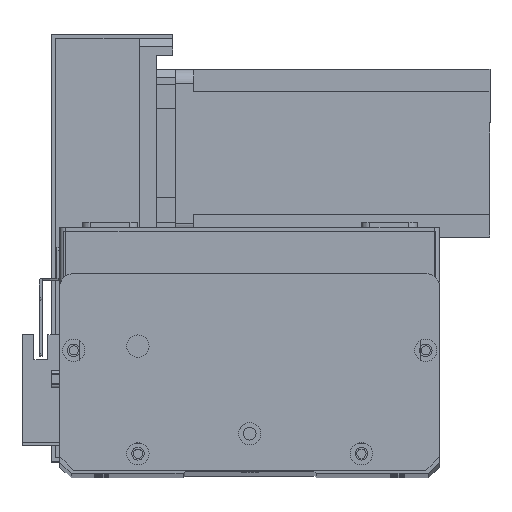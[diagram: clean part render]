
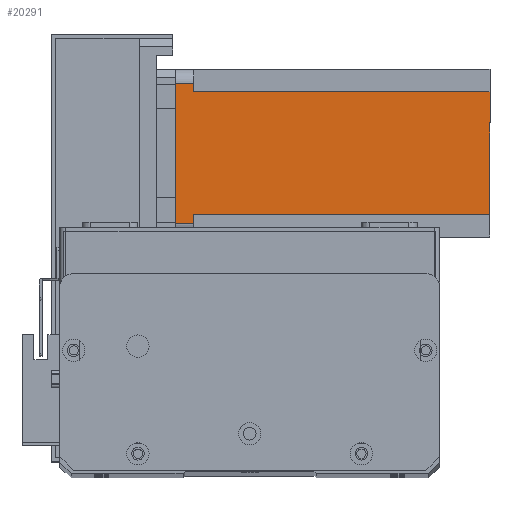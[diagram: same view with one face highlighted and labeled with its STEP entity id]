
A CAD part, top view. The second image highlights one B-rep face of the part: STEP entity #20291.
In plain terms, the highlighted planar face has unit normal (0, 0, 1) as drawn and (0, -1, 0) by its records, which use the part's own axes.
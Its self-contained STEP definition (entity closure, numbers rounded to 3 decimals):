
#409 = EDGE_CURVE ( 'NONE', #1395, #6308, #28126, .T. ) ;
#1178 = CARTESIAN_POINT ( 'NONE',  ( 55., 0., -6.5 ) ) ;
#1395 = VERTEX_POINT ( 'NONE', #23393 ) ;
#2727 = ORIENTED_EDGE ( 'NONE', *, *, #26328, .T. ) ;
#2772 = ORIENTED_EDGE ( 'NONE', *, *, #12820, .F. ) ;
#2893 = VERTEX_POINT ( 'NONE', #1178 ) ;
#3496 = VERTEX_POINT ( 'NONE', #20284 ) ;
#3690 = VECTOR ( 'NONE', #4307, 1000. ) ;
#4184 = DIRECTION ( 'NONE',  ( 1., 0., 0. ) ) ;
#4307 = DIRECTION ( 'NONE',  ( 1., 0., 0. ) ) ;
#4383 = LINE ( 'NONE', #22346, #3690 ) ;
#4806 = ORIENTED_EDGE ( 'NONE', *, *, #17255, .T. ) ;
#4858 = EDGE_CURVE ( 'NONE', #3496, #24020, #10152, .T. ) ;
#5598 = CARTESIAN_POINT ( 'NONE',  ( 52., 0., -112.5 ) ) ;
#5762 = DIRECTION ( 'NONE',  ( 0., 0., -1. ) ) ;
#6308 = VERTEX_POINT ( 'NONE', #9571 ) ;
#6412 = CARTESIAN_POINT ( 'NONE',  ( 52., 0., -6.5 ) ) ;
#6888 = EDGE_CURVE ( 'NONE', #15036, #24020, #28489, .T. ) ;
#7307 = DIRECTION ( 'NONE',  ( -1., 0., 0. ) ) ;
#7412 = CARTESIAN_POINT ( 'NONE',  ( 8., 0., -6.5 ) ) ;
#9251 = ORIENTED_EDGE ( 'NONE', *, *, #12683, .T. ) ;
#9571 = CARTESIAN_POINT ( 'NONE',  ( 52., 0., -112.5 ) ) ;
#9656 = VERTEX_POINT ( 'NONE', #26889 ) ;
#9695 = CARTESIAN_POINT ( 'NONE',  ( 0., 0., -112.5 ) ) ;
#9702 = DIRECTION ( 'NONE',  ( 0., 0., -1. ) ) ;
#10152 = LINE ( 'NONE', #12236, #22052 ) ;
#11396 = VERTEX_POINT ( 'NONE', #22835 ) ;
#11925 = DIRECTION ( 'NONE',  ( 0., 0., -1. ) ) ;
#12173 = VECTOR ( 'NONE', #7307, 1000. ) ;
#12236 = CARTESIAN_POINT ( 'NONE',  ( 5., 0., -112.5 ) ) ;
#12683 = EDGE_CURVE ( 'NONE', #1395, #2893, #18901, .T. ) ;
#12820 = EDGE_CURVE ( 'NONE', #9656, #15036, #26514, .T. ) ;
#14444 = ORIENTED_EDGE ( 'NONE', *, *, #4858, .T. ) ;
#14719 = LINE ( 'NONE', #17730, #25883 ) ;
#15036 = VERTEX_POINT ( 'NONE', #15985 ) ;
#15985 = CARTESIAN_POINT ( 'NONE',  ( 8., 0., -6.5 ) ) ;
#17071 = VECTOR ( 'NONE', #5762, 1000. ) ;
#17255 = EDGE_CURVE ( 'NONE', #9656, #6308, #14719, .T. ) ;
#17684 = ORIENTED_EDGE ( 'NONE', *, *, #6888, .F. ) ;
#17730 = CARTESIAN_POINT ( 'NONE',  ( 0., 0., -112.5 ) ) ;
#17774 = EDGE_CURVE ( 'NONE', #3496, #11396, #4383, .T. ) ;
#17816 = CARTESIAN_POINT ( 'NONE',  ( 5., 0., -6.5 ) ) ;
#18262 = CARTESIAN_POINT ( 'NONE',  ( 8., 0., -112.5 ) ) ;
#18589 = PLANE ( 'NONE',  #23241 ) ;
#18901 = LINE ( 'NONE', #6412, #24152 ) ;
#20284 = CARTESIAN_POINT ( 'NONE',  ( 5., 0., 0. ) ) ;
#20291 = ADVANCED_FACE ( 'NONE', ( #21791 ), #18589, .T. ) ;
#20602 = VECTOR ( 'NONE', #22774, 1000. ) ;
#20916 = VECTOR ( 'NONE', #21363, 1000. ) ;
#21363 = DIRECTION ( 'NONE',  ( 0., 0., 1. ) ) ;
#21791 = FACE_OUTER_BOUND ( 'NONE', #25796, .T. ) ;
#22052 = VECTOR ( 'NONE', #9702, 1000. ) ;
#22346 = CARTESIAN_POINT ( 'NONE',  ( 0., 0., 0. ) ) ;
#22774 = DIRECTION ( 'NONE',  ( 0., 0., 1. ) ) ;
#22835 = CARTESIAN_POINT ( 'NONE',  ( 55., 0., 0. ) ) ;
#23241 = AXIS2_PLACEMENT_3D ( 'NONE', #9695, #25326, #11925 ) ;
#23393 = CARTESIAN_POINT ( 'NONE',  ( 52., 0., -6.5 ) ) ;
#24020 = VERTEX_POINT ( 'NONE', #17816 ) ;
#24152 = VECTOR ( 'NONE', #28854, 1000. ) ;
#25326 = DIRECTION ( 'NONE',  ( 0., -1., 0. ) ) ;
#25796 = EDGE_LOOP ( 'NONE', ( #9251, #2727, #28319, #14444, #17684, #2772, #4806, #28910 ) ) ;
#25883 = VECTOR ( 'NONE', #4184, 1000. ) ;
#26328 = EDGE_CURVE ( 'NONE', #2893, #11396, #27488, .T. ) ;
#26430 = CARTESIAN_POINT ( 'NONE',  ( 55., 0., -112.5 ) ) ;
#26514 = LINE ( 'NONE', #18262, #20602 ) ;
#26889 = CARTESIAN_POINT ( 'NONE',  ( 8., 0., -112.5 ) ) ;
#27488 = LINE ( 'NONE', #26430, #20916 ) ;
#28126 = LINE ( 'NONE', #5598, #17071 ) ;
#28319 = ORIENTED_EDGE ( 'NONE', *, *, #17774, .F. ) ;
#28489 = LINE ( 'NONE', #7412, #12173 ) ;
#28854 = DIRECTION ( 'NONE',  ( 1., 0., 0. ) ) ;
#28910 = ORIENTED_EDGE ( 'NONE', *, *, #409, .F. ) ;
